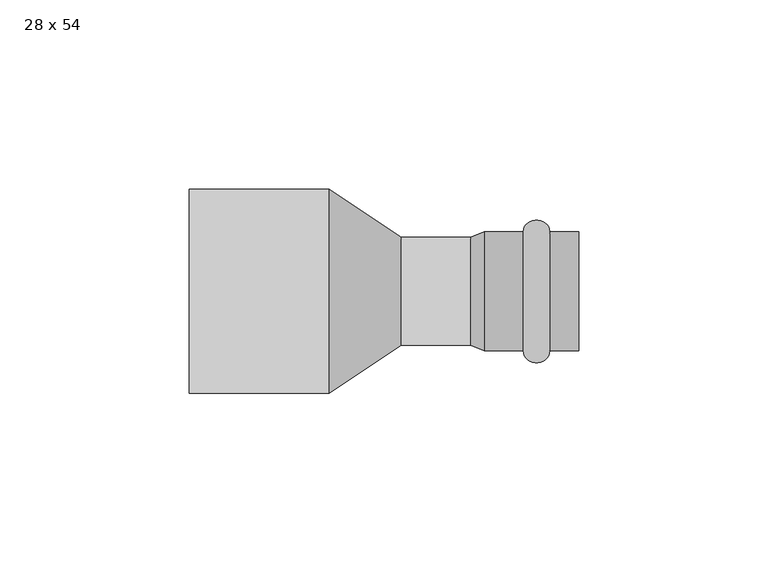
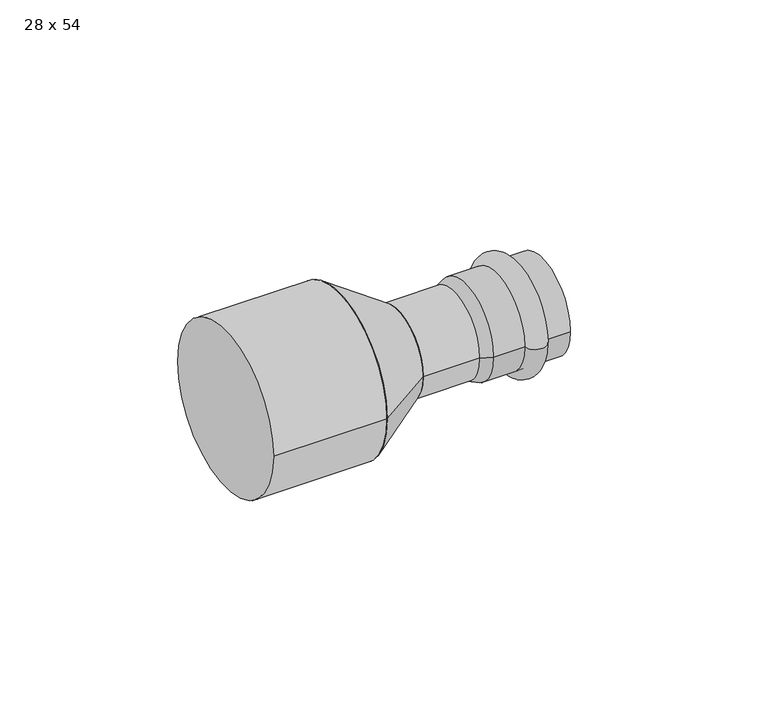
"""IFC4 building model written with IfcOpenShell, lengths in millimetres: pipe fitting geometry, РЕХАУ_Пресс Вставка переходная : 28 x 54."""

import ifcopenshell
import ifcopenshell.guid

model = None  # the IFC model being written
_history = None  # IfcOwnerHistory: only IFC2X3 demands one
_inside = {}  # id of a spatial element -> (the spatial element, [elements in it])
_under = {}  # id of a project, library or spatial element -> (it, [spatial elements below it])
_declared = {}  # id of a project -> (the project, [libraries it declares])
_typed = {}  # id of a type object -> (the type object, [elements of that type])
_made_of = {}  # id of a material, layer set ... -> (it, [elements and type objects made of it])


def new_model(schema):
    """Start an empty IFC model of exactly this schema.

    Asked for "IFC4X3", IfcOpenShell would pick the latest addendum, in which some entities
    have other attributes; the version numbers below select the first issue.
    IFC2X3 requires an IfcOwnerHistory on every rooted entity: one is made here for all.
    """
    global model, _history
    if schema == "IFC4X3":
        model = ifcopenshell.file(schema_version=(4, 3, 0, 0))
    else:
        model = ifcopenshell.file(schema=schema)
    _inside.clear()
    _under.clear()
    _declared.clear()
    _typed.clear()
    _made_of.clear()
    _history = None
    if model.schema == "IFC2X3":
        org = make("IfcOrganization", Name="unknown")
        user = make(
            "IfcPersonAndOrganization",
            ThePerson=make("IfcPerson", FamilyName="unknown"),
            TheOrganization=org,
        )
        app = make(
            "IfcApplication",
            ApplicationDeveloper=org,
            Version="unknown",
            ApplicationFullName="unknown",
            ApplicationIdentifier="unknown",
        )
        _history = make(
            "IfcOwnerHistory",
            OwningUser=user,
            OwningApplication=app,
            ChangeAction="ADDED",
            CreationDate=0,
        )
    return model


def make(cls, **values):
    """One entity of the class cls with the attributes given. An attribute that is None is left unset."""
    return model.create_entity(
        cls, **{name: value for name, value in values.items() if value is not None}
    )


def rooted(cls, **values):
    """An entity with a GlobalId (a new one), such as an element, a storey or a relation."""
    return make(cls, GlobalId=ifcopenshell.guid.new(), OwnerHistory=_history, **values)


def si_unit(unit_type, name, prefix=None):
    """IfcSIUnit, for example si_unit("LENGTHUNIT", "METRE", prefix="MILLI")."""
    return make("IfcSIUnit", UnitType=unit_type, Prefix=prefix, Name=name)


def assignment(units):
    """IfcUnitAssignment: the units of a project."""
    return None if units is None else make("IfcUnitAssignment", Units=units)


def point(xyz):
    """IfcCartesianPoint."""
    return None if xyz is None else make("IfcCartesianPoint", Coordinates=xyz)


def direction(xyz):
    """IfcDirection."""
    return None if xyz is None else make("IfcDirection", DirectionRatios=xyz)


def frame(location, z_axis=None, x_axis=None):
    """IfcAxis2Placement3D, a coordinate frame: its origin and axes. An axis left out is left unset."""
    return make(
        "IfcAxis2Placement3D",
        Location=point(location),
        Axis=direction(z_axis),
        RefDirection=direction(x_axis),
    )


def frame_2d(location, x_axis=None):
    """IfcAxis2Placement2D, a coordinate frame in the plane: its origin and x axis."""
    return make(
        "IfcAxis2Placement2D", Location=point(location), RefDirection=direction(x_axis)
    )


def origin():
    """The frame at (0, 0, 0) with its axes left unset."""
    return frame((0.0, 0.0, 0.0))


def origin_2d():
    """The frame at (0, 0) in the plane with its x axis left unset."""
    return frame_2d((0.0, 0.0))


def place(relative_to, where):
    """IfcLocalPlacement: puts the frame where relative to a parent placement (None: the world)."""
    return make(
        "IfcLocalPlacement", PlacementRelTo=relative_to, RelativePlacement=where
    )


def context(
    kind, dimensions, precision=None, world=None, true_north=None, identifier=None
):
    """IfcGeometricRepresentationContext, for example the 3D "Model" context."""
    return make(
        "IfcGeometricRepresentationContext",
        ContextIdentifier=identifier,
        ContextType=kind,
        CoordinateSpaceDimension=dimensions,
        Precision=precision,
        WorldCoordinateSystem=world,
        TrueNorth=true_north,
    )


def project(units=None, contexts=None):
    """IfcProject with its units and contexts."""
    return rooted(
        "IfcProject",
        Name="project",
        RepresentationContexts=contexts,
        UnitsInContext=assignment(units),
    )


def spatial(cls, under=None, at=None, **own):
    """A site, building, storey or space (cls), placed at a placement, below another one or the project."""
    s = rooted(cls, ObjectPlacement=at, **own)
    if under is not None:
        _under.setdefault(under.id(), (under, []))[1].append(s)
    return s


def polyline(points):
    """IfcPolyline through the points."""
    return make("IfcPolyline", Points=[point(p) for p in points])


def circle_curve(where, radius):
    """IfcCircle in the frame where."""
    return make("IfcCircle", Position=where, Radius=radius)


def ellipse_curve(where, semi_axis1, semi_axis2):
    """IfcEllipse in the frame where."""
    return make(
        "IfcEllipse", Position=where, SemiAxis1=semi_axis1, SemiAxis2=semi_axis2
    )


def trimmed(basis, trim1, trim2, sense, master):
    """IfcTrimmedCurve: the piece of a basis curve between two trims."""
    return make(
        "IfcTrimmedCurve",
        BasisCurve=basis,
        Trim1=trim1,
        Trim2=trim2,
        SenseAgreement=sense,
        MasterRepresentation=master,
    )


def segment(curve, same_sense, transition):
    """IfcCompositeCurveSegment."""
    return make(
        "IfcCompositeCurveSegment",
        Transition=transition,
        SameSense=same_sense,
        ParentCurve=curve,
    )


def composite_curve(segments, self_intersect=None):
    """IfcCompositeCurve: segments joined end to end."""
    return make("IfcCompositeCurve", Segments=segments, SelfIntersect=self_intersect)


def outline(outer, holes=None, kind="AREA"):
    """IfcArbitraryClosedProfileDef: a profile drawn as a closed curve; with holes, ...WithVoids."""
    if holes is None:
        return make("IfcArbitraryClosedProfileDef", ProfileType=kind, OuterCurve=outer)
    return make(
        "IfcArbitraryProfileDefWithVoids",
        ProfileType=kind,
        OuterCurve=outer,
        InnerCurves=holes,
    )


def extrude(swept, where, along, depth):
    """IfcExtrudedAreaSolid: the profile swept, set in the frame where, extruded along a direction by depth."""
    return make(
        "IfcExtrudedAreaSolid",
        SweptArea=swept,
        Position=where,
        ExtrudedDirection=direction(along),
        Depth=depth,
    )


def shape(context_of_items, identifier, shape_type, items):
    """IfcShapeRepresentation: the items that make up one representation, for example the "Body"."""
    return make(
        "IfcShapeRepresentation",
        ContextOfItems=context_of_items,
        RepresentationIdentifier=identifier,
        RepresentationType=shape_type,
        Items=items,
    )


def source(mapping_origin, context_of_items, identifier, shape_type, items):
    """IfcRepresentationMap: a shape defined once, which mapped items show again and again."""
    return make(
        "IfcRepresentationMap",
        MappingOrigin=mapping_origin,
        MappedRepresentation=shape(context_of_items, identifier, shape_type, items),
    )


def transform(
    local_origin,
    x_axis=None,
    y_axis=None,
    z_axis=None,
    scale=None,
    scale2=None,
    scale3=None,
    uniform=True,
):
    """IfcCartesianTransformationOperator3D, or its non-uniform kind. x_axis, y_axis, z_axis: its Axis1, 2, 3."""
    if uniform:
        return make(
            "IfcCartesianTransformationOperator3D",
            Axis1=direction(x_axis),
            Axis2=direction(y_axis),
            LocalOrigin=point(local_origin),
            Scale=scale,
            Axis3=direction(z_axis),
        )
    return make(
        "IfcCartesianTransformationOperator3DnonUniform",
        Axis1=direction(x_axis),
        Axis2=direction(y_axis),
        LocalOrigin=point(local_origin),
        Scale=scale,
        Axis3=direction(z_axis),
        Scale2=scale2,
        Scale3=scale3,
    )


def mapped(mapping_source, mapping_target):
    """IfcMappedItem: shows the shape of a source again, moved by a transform."""
    return make(
        "IfcMappedItem", MappingSource=mapping_source, MappingTarget=mapping_target
    )


def made_of(thing, what):
    """Note that an element or type object is made of a material, layer set ...; save() writes the relation."""
    if what is not None:
        _made_of.setdefault(what.id(), (what, []))[1].append(thing)
    return thing


def element(
    cls,
    number,
    at=None,
    inside=None,
    cuts=None,
    type_object=None,
    material=None,
    context=None,
    identifier="Body",
    shape_type=None,
    held_by="IfcProductDefinitionShape",
    body=None,
    shapes=None,
    **own,
):
    """One element of the class cls, such as IfcWall. Its Tag is "e" and its number.

    at: its placement. inside: the storey or other place that contains it. cuts: it is an
    opening in that element (IfcRelVoidsElement). A single representation is given by context,
    identifier, shape_type and body (its items); several are given by shapes. held_by: the class
    of the entity that holds the representations. save() writes the other relations.
    """
    e = rooted(cls, Tag="e%d" % number, ObjectPlacement=at, **own)
    if body is not None:
        shapes = [shape(context, identifier, shape_type, body)]
    if shapes is not None:
        e.Representation = make(held_by, Representations=shapes)
    if inside is not None:
        _inside.setdefault(inside.id(), (inside, []))[1].append(e)
    if cuts is not None:
        rooted(
            "IfcRelVoidsElement", RelatingBuildingElement=cuts, RelatedOpeningElement=e
        )
    if type_object is not None:
        _typed.setdefault(type_object.id(), (type_object, []))[1].append(e)
    return made_of(e, material)


def aggregate(whole, parts):
    """IfcRelAggregates: a whole, such as a stair, and the parts it consists of."""
    return rooted("IfcRelAggregates", RelatingObject=whole, RelatedObjects=parts)


def save(model, path):
    """Write the relations noted so far, then the file.

    IfcRelAggregates (storeys below a building ...), IfcRelContainedInSpatialStructure (elements
    in a storey), IfcRelDefinesByType, IfcRelAssociatesMaterial and IfcRelDeclares: one each for
    every whole, place, type object, material and project.
    """
    for whole, parts in _under.values():
        aggregate(whole, parts)
    for where, things in _inside.values():
        rooted(
            "IfcRelContainedInSpatialStructure",
            RelatedElements=things,
            RelatingStructure=where,
        )
    for kind, things in _typed.values():
        rooted("IfcRelDefinesByType", RelatedObjects=things, RelatingType=kind)
    for what, things in _made_of.values():
        rooted("IfcRelAssociatesMaterial", RelatedObjects=things, RelatingMaterial=what)
    for by, libraries in _declared.values():
        rooted("IfcRelDeclares", RelatingContext=by, RelatedDefinitions=libraries)
    model.write(path)


def plane_surface(at):
    """IfcPlane: the flat surface through the origin of the frame at, square to its z axis."""
    return make("IfcPlane", Position=at)


def cylinder_surface(at, radius):
    """IfcCylindricalSurface: all points at the distance radius from the z axis of the frame at."""
    return make("IfcCylindricalSurface", Position=at, Radius=radius)


def revolved_surface(curve, axis_point, axis_direction):
    """IfcSurfaceOfRevolution: the curve turned about the line through axis_point along axis_direction."""
    return make(
        "IfcSurfaceOfRevolution",
        SweptCurve=make("IfcArbitraryOpenProfileDef", ProfileType="CURVE", Curve=curve),
        AxisPosition=make("IfcAxis1Placement", Location=point(axis_point), Axis=direction(axis_direction)),
    )


def advanced_brep(points, edges, surfaces, faces):
    """IfcAdvancedBrep: a solid bounded by faces that lie on surfaces and meet in shared edges.

    An edge is (start, end): straight between two places in points (the first is 0);
    or (start, end, curve); or (start, end, curve, False) where it runs against its curve.
    A face is (place in surfaces, loops), or (place, loops, False) where it looks against
    its surface's normal. A loop lists edges by number (the first is 1), with a minus sign
    where the edge is run from its end to its start. The first loop is the outer one.
    """
    corners = [point(p) for p in points]
    vertices = [make("IfcVertexPoint", VertexGeometry=c) for c in corners]
    made = []
    for start, end, *more in edges:
        made.append(
            make(
                "IfcEdgeCurve",
                EdgeStart=vertices[start],
                EdgeEnd=vertices[end],
                EdgeGeometry=more[0] if more else make("IfcPolyline", Points=[corners[start], corners[end]]),
                SameSense=more[1] if len(more) > 1 else True,
            )
        )
    hull = []
    for where, loops, *sense in faces:
        bounds = []
        for j, loop in enumerate(loops):
            ring = [make("IfcOrientedEdge", EdgeElement=made[abs(k) - 1], Orientation=k > 0) for k in loop]
            bounds.append(
                make(
                    "IfcFaceOuterBound" if j == 0 else "IfcFaceBound",
                    Bound=make("IfcEdgeLoop", EdgeList=ring),
                    Orientation=True,
                )
            )
        hull.append(make("IfcAdvancedFace", Bounds=bounds, FaceSurface=surfaces[where], SameSense=sense[0] if sense else True))
    return make("IfcAdvancedBrep", Outer=make("IfcClosedShell", CfsFaces=hull))


def pipe_fitting_28_x_54_8448455f(model_context):
    return source(origin(), model_context, "Body", "SolidModel", [
        advanced_brep(
        [(95.3, 15.75, 0.0), (95.3, -15.75, 0.0), (88.3, -15.75, 0.0), (88.3, 15.75, 0.0)],
        [
            (0, 1, circle_curve(frame((95.3, 0.0, 0.0), z_axis=(1.0, 0.0, 0.0), x_axis=(0.0, -1.0, 0.0)), 15.75)),
            (1, 2),
            (2, 3, circle_curve(frame((88.3, 0.0, 0.0), z_axis=(-1.0, 0.0, 0.0), x_axis=(0.0, -1.0, 0.0)), 15.75)),
            (3, 0),
            (1, 0, circle_curve(frame((95.3, 0.0, 0.0), z_axis=(1.0, 0.0, 0.0), x_axis=(0.0, -1.0, 0.0)), 15.75)),
            (3, 2, circle_curve(frame((88.3, 0.0, 0.0), z_axis=(-1.0, 0.0, 0.0), x_axis=(0.0, -1.0, 0.0)), 15.75)),
            (2, 1, ellipse_curve(frame((91.8, -15.75, 0.0), z_axis=(0.0, 0.0, 1.0), x_axis=(1.0, 0.0, 0.0)), 3.5, 3.1)),
            (0, 3, ellipse_curve(frame((91.8, 15.75, 0.0), z_axis=(0.0, 0.0, 1.0), x_axis=(1.0, 0.0, 0.0)), 3.5, 3.1)),
        ],
        [
            revolved_surface(polyline([(88.3, -15.75, 0.0), (95.3, -15.75, 0.0)]), (75.3, 0.0, 0.0), (-1.0, 0.0, 0.0)),
            revolved_surface(trimmed(ellipse_curve(frame((91.8, -15.75, 0.0), z_axis=(0.0, 0.0, -1.0), x_axis=(1.0, 0.0, 0.0)), 3.5, 3.1), [point((95.3, -15.75, 0.0))], [point((88.3, -15.75, 0.0))], True, "CARTESIAN"), (75.3, 0.0, 0.0), (-1.0, 0.0, 0.0)),
        ],
        [
            (0, [[1, 2, 3, 4]]),
            (0, [[5, -4, 6, -2]]),
            (1, [[-3, 7, -1, 8]]),
            (1, [[-6, -8, -5, -7]]),
        ],
    ),
        advanced_brep(
        [(74.4662215, 14.25, 0.0), (74.4662215, -14.25, 0.0), (78.0, -15.75, 0.0), (78.0, 15.75, 0.0), (103.0, 14.25, 0.0), (103.0, -14.25, 0.0), (103.0, 15.75, 0.0), (103.0, -15.75, 0.0)],
        [
            (0, 1, circle_curve(frame((74.4662215, 0.0, 0.0), z_axis=(1.0, 0.0, 0.0), x_axis=(0.0, -1.0, 0.0)), 14.25)),
            (1, 2),
            (2, 3, circle_curve(frame((78.0, 0.0, 0.0), z_axis=(-1.0, 0.0, 0.0), x_axis=(0.0, -1.0, 0.0)), 15.75)),
            (3, 0),
            (1, 0, circle_curve(frame((74.4662215, 0.0, 0.0), z_axis=(1.0, 0.0, 0.0), x_axis=(0.0, -1.0, 0.0)), 14.25)),
            (3, 2, circle_curve(frame((78.0, 0.0, 0.0), z_axis=(-1.0, 0.0, 0.0), x_axis=(0.0, -1.0, 0.0)), 15.75)),
            (4, 5, circle_curve(frame((103.0, 0.0, 0.0), z_axis=(1.0, 0.0, 0.0), x_axis=(0.0, -1.0, 0.0)), 14.25)),
            (5, 1),
            (0, 4),
            (5, 4, circle_curve(frame((103.0, 0.0, 0.0), z_axis=(1.0, 0.0, 0.0), x_axis=(0.0, -1.0, 0.0)), 14.25)),
            (6, 7, circle_curve(frame((103.0, 0.0, 0.0), z_axis=(1.0, 0.0, 0.0), x_axis=(0.0, -1.0, 0.0)), 15.75)),
            (7, 5),
            (4, 6),
            (7, 6, circle_curve(frame((103.0, 0.0, 0.0), z_axis=(1.0, 0.0, 0.0), x_axis=(0.0, -1.0, 0.0)), 15.75)),
            (2, 7),
            (6, 3),
        ],
        [
            revolved_surface(polyline([(78.0, -15.75, 0.0), (74.4662215, -14.25, 0.0)]), (75.3, 0.0, 0.0), (-1.0, 0.0, 0.0)),
            revolved_surface(polyline([(74.4662215, -14.25, 0.0), (103.0, -14.25, 0.0)]), (75.3, 0.0, 0.0), (-1.0, 0.0, 0.0)),
            plane_surface(frame((103.0, 0.0, 0.0), z_axis=(1.0, 0.0, 0.0), x_axis=(0.0, -1.0, 0.0))),
            cylinder_surface(frame((75.3, 0.0, 0.0), z_axis=(-1.0, 0.0, 0.0), x_axis=(0.0, -1.0, 0.0)), 15.75),
        ],
        [
            (0, [[1, 2, 3, 4]]),
            (0, [[5, -4, 6, -2]]),
            (1, [[7, 8, -1, 9]]),
            (1, [[10, -9, -5, -8]]),
            (2, [[11, 12, -7, 13]]),
            (2, [[14, -13, -10, -12]]),
            (3, [[-3, 15, -11, 16]]),
            (3, [[-6, -16, -14, -15]]),
        ],
    ),
        extrude(outline(composite_curve([segment(trimmed(circle_curve(origin_2d(), 14.25), [point((-14.25, 0.0))], [point((14.25, 0.0))], False, "CARTESIAN"), True, "CONTINUOUS"), segment(trimmed(circle_curve(origin_2d(), 14.25), [point((14.25, 0.0))], [point((-14.25, 0.0))], False, "CARTESIAN"), True, "CONTINUOUS")], self_intersect=False)), frame((56.1, 0.0, 0.0), z_axis=(1.0, 0.0, 0.0), x_axis=(0.0, 1.0, 0.0)), (0.0, 0.0, 1.0), 21.9),
        advanced_brep(
        [(56.1, -14.25, 0.0), (56.1, 14.25, 0.0), (37.0, -27.0, 0.0), (37.0, 27.0, 0.0)],
        [
            (0, 1, circle_curve(frame((56.1, 0.0, 0.0), z_axis=(1.0, 0.0, 0.0), x_axis=(0.0, -1.0, 0.0)), 14.25)),
            (1, 0, circle_curve(frame((56.1, 0.0, 0.0), z_axis=(1.0, 0.0, 0.0), x_axis=(0.0, 1.0, 0.0)), 14.25)),
            (2, 3, circle_curve(frame((37.0, 0.0, 0.0), z_axis=(-1.0, 0.0, 0.0), x_axis=(0.0, 1.0, 0.0)), 27.0)),
            (3, 2, circle_curve(frame((37.0, 0.0, 0.0), z_axis=(-1.0, 0.0, 0.0), x_axis=(0.0, -1.0, 0.0)), 27.0)),
            (3, 1),
            (0, 2),
        ],
        [
            plane_surface(frame((56.1, 0.0, 0.0), z_axis=(1.0, 0.0, 0.0), x_axis=(0.0, 0.0, -1.0))),
            plane_surface(frame((37.0, 0.0, 0.0), z_axis=(-1.0, 0.0, 0.0), x_axis=(0.0, 0.0, -1.0))),
            revolved_surface(polyline([(56.099999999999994, -14.249999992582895, 0.0), (37.0, -27.0, 0.0)]), (77.4470588, 0.0, 0.0), (-1.0, 0.0, 0.0)),
            revolved_surface(polyline([(56.099999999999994, 14.249999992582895, 0.0), (37.0, 27.0, 0.0)]), (77.4470588, 0.0, 0.0), (-1.0, 0.0, 0.0)),
        ],
        [
            (0, [[1, 2]]),
            (1, [[3, 4]]),
            (2, [[-4, 5, -1, 6]]),
            (3, [[-3, -6, -2, -5]]),
        ],
    ),
        extrude(outline(composite_curve([segment(trimmed(circle_curve(origin_2d(), 27.0), [point((-27.0, 0.0))], [point((27.0, 0.0))], False, "CARTESIAN"), True, "CONTINUOUS"), segment(trimmed(circle_curve(origin_2d(), 27.0), [point((27.0, 0.0))], [point((-27.0, 0.0))], False, "CARTESIAN"), True, "CONTINUOUS")], self_intersect=False)), frame((0.0, 0.0, 0.0), z_axis=(1.0, 0.0, 0.0), x_axis=(0.0, 1.0, 0.0)), (0.0, 0.0, 1.0), 37.0),
    ])


if __name__ == "__main__":
    model = new_model("IFC4")
    model_context = context("Model", 3, world=origin())
    ifc_project = project(units=[si_unit("LENGTHUNIT", "METRE", prefix="MILLI")], contexts=[model_context])
    site = spatial("IfcSite", under=ifc_project)
    building = spatial("IfcBuilding", under=site)
    placement = place(None, origin())
    pipe_fitting_28_x_54_shape = pipe_fitting_28_x_54_8448455f(model_context)
    element("IfcPipeFitting", 1, ObjectType="РЕХАУ_Пресс Вставка переходная : 28 x 54", at=placement, inside=building, context=model_context, shape_type="MappedRepresentation", body=[
        mapped(pipe_fitting_28_x_54_shape, transform((0.0, 0.0, 0.0), x_axis=(1.0, 0.0, 0.0), y_axis=(0.0, 1.0, 0.0), z_axis=(0.0, 0.0, 1.0))),
    ])
    save(model, "model.ifc")
